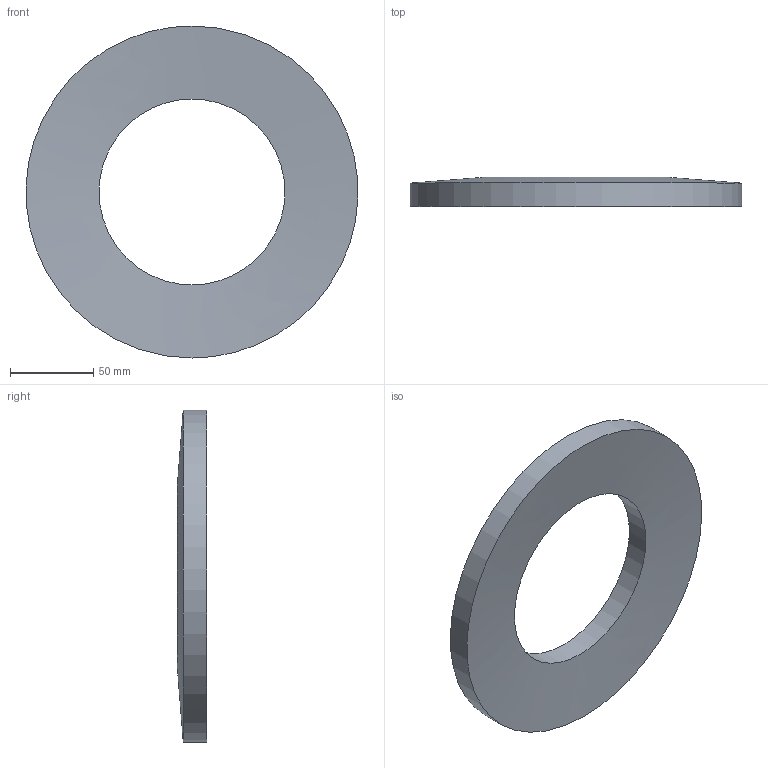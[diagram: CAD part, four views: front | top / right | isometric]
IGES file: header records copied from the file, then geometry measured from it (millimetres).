
Global section: file name: ST.2000.1120.1400; native system: Autodesk Inventor 2026; preprocessor: unknown; author: J. Iwanek; date: 20260918.103639; units: millimetre
Bounding box: 199.82 x 17.5 x 200 mm (x, y, z)
Volume: 302934.6 mm3; surface area: 57046.1 mm2
Topology: 1 solids, 1 shells, 4 faces, 12 edges, 8 vertices
Faces by surface type: bspline 4
